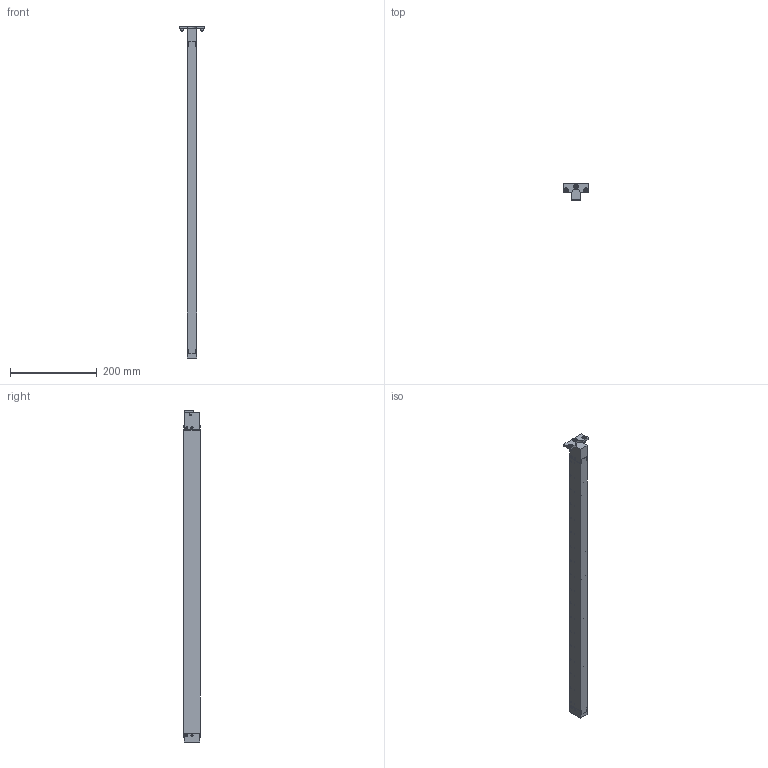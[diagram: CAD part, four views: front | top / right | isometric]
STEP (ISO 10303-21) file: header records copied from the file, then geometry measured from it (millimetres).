
FILE_DESCRIPTION(/* description */ (''),/* implementation_level */ '2;1');
FILE_NAME(/* name */ 'S:\EASCN Vault\Designs\Standard Part\DIE LIFTERS\EHB\EHB- 3D step\EHB22 - 3D step complete serie\EHB 22-18.stp',/* time_stamp */ '2019-11-21T14:40:18+08:00',/* author */ ('yue.yang'),/* organization */ (''),/* preprocessor_version */ 'ST-DEVELOPER v17',/* originating_system */ 'Autodesk Inventor 2019',/* authorisation */ '');
FILE_SCHEMA (('AUTOMOTIVE_DESIGN { 1 0 10303 214 3 1 1 }'));
Length unit declared in the file: millimetre
Products named in the file (1): EHB 22-18_Shrinkwrap_1
Bounding box: 58 x 37.8 x 766 mm (x, y, z)
Volume: 493840.8 mm3; surface area: 195198.6 mm2
Topology: 66 solids, 66 shells, 647 faces, 1775 edges, 1279 vertices
Faces by surface type: plane 236, cylinder 202, cone 101, torus 90, sphere 18
Full cylindrical faces by diameter (mm): 3 x2, 4.134 x1, 5 x15, 5.5 x4, 6 x19, 6.647 x1, 8 x1, 10 x6, 12.2 x18, 16 x18, 16.4 x18, 17.05 x18, 19.05 x18, 19.2 x18
Entity records: 24073 total; most frequent: CARTESIAN_POINT 5925, DIRECTION 3931, ORIENTED_EDGE 3432, AXIS2_PLACEMENT_3D 1725, EDGE_CURVE 1716, VERTEX_POINT 1279, CIRCLE 1075, EDGE_LOOP 831
